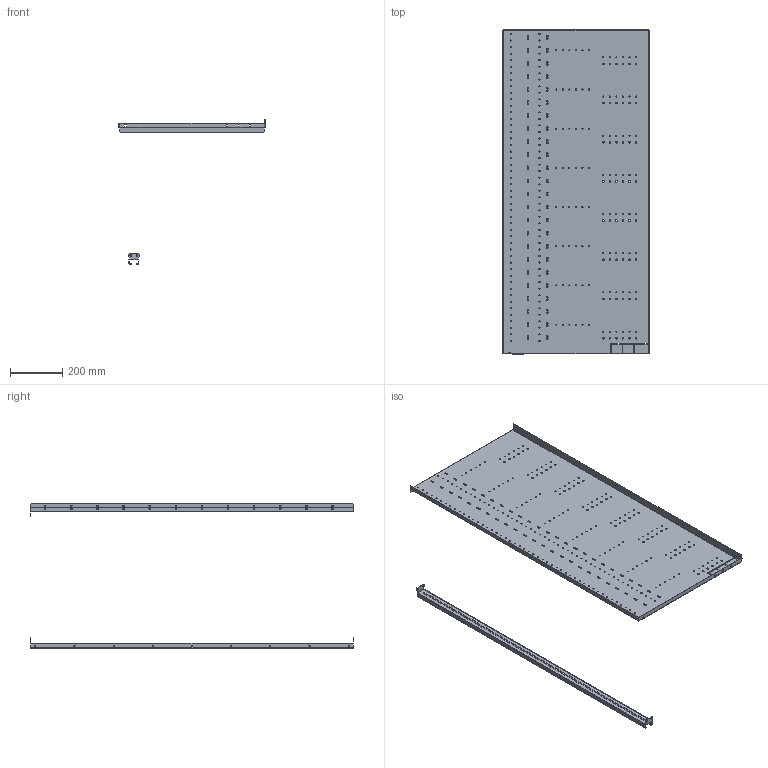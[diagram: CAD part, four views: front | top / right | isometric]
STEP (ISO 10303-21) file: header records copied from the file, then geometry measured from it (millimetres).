
FILE_DESCRIPTION(('CAx-IF Rec.Pracs.---Model Styling and Organization---1.2---2011-12-15','CAx-IF Rec.Pracs.---Geometric and Assembly Validation Properties---4.1---2014-06-16','CAx-IF Rec.Pracs.---PMI Polyline Presentation---2.0---2013-05-24'),'2;1');
FILE_NAME('R5M2CCR24M12.stp','2021-05-05T11:51:06+03:00',(''),(''),'STEP Interface 4.4 by CT CoreTechnologie','3D_Evolution4.4 by CT CoreTechnologie','');
FILE_SCHEMA(('AUTOMOTIVE_DESIGN { 1 0 10303 214 1 1 1 1 }'));
Length unit declared in the file: millimetre
Products named in the file (3): R5M2CCR24M12; RB.1402.00.00.0_-00; RB.0838.00.00.0_-00
Assembly tree (2 placements, depth 2):
  R5M2CCR24M12
    RB.1402.00.00.0_-00
    RB.0838.00.00.0_-00
Bounding box: 559.5 x 1240 x 552 mm (x, y, z)
Surface area: 1732921.3 mm2 (no closed solid volume)
Topology: 0 solids, 2 shells, 1213 faces, 3620 edges, 2401 vertices
Faces by surface type: cylinder 898, plane 311, bspline 4
Entity records: 43825 total; most frequent: DIRECTION 7827, CARTESIAN_POINT 7389, ORIENTED_EDGE 7240, EDGE_CURVE 3620, AXIS2_PLACEMENT_3D 3003, VERTEX_POINT 2403, EDGE_LOOP 2181, VECTOR 1821
